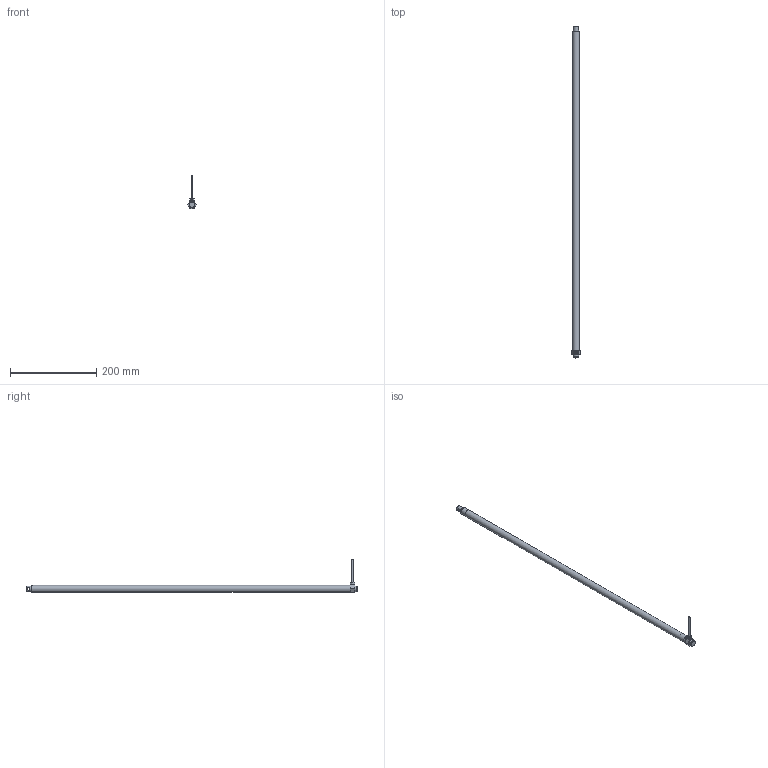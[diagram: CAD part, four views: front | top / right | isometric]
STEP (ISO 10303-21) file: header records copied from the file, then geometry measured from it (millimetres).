
FILE_DESCRIPTION(/* description */ ('Unknown'),/* implementation_level */ '2;1');
FILE_NAME(/* name */ '107.00037 Zylinder CB 1470_eingefahren',/* time_stamp */ '2018-03-26T09:12:37+02:00',/* author */ ('Unknown'),/* organization */ ('Unknown'),/* preprocessor_version */ 'ST-DEVELOPER v16.7',/* originating_system */ 'DEX',/* authorisation */ $);
FILE_SCHEMA (('AUTOMOTIVE_DESIGN {1 0 10303 214 3 1 1}'));
Length unit declared in the file: millimetre
Products named in the file (9): 107.00037; 121.00097; 142.00021; 125.00021; 115.00001_oa_0; 125.00033; 120.00177; 122.00001; 113.00002_70mm
Assembly tree (8 placements, depth 2):
  107.00037
    121.00097
    142.00021
    125.00021
    115.00001_oa_0
    125.00033
    120.00177
    122.00001
    113.00002_70mm
Bounding box: 19.63 x 769 x 76.5 mm (x, y, z)
Volume: 123158.2 mm3; surface area: 103381.3 mm2
Topology: 7 solids, 7 shells, 91 faces, 188 edges, 121 vertices
Faces by surface type: plane 37, cylinder 28, cone 22, torus 3, sphere 1
Full cylindrical faces by diameter (mm): 2.2 x1, 2.78 x1, 3.5 x1, 4 x1, 4.1 x1, 4.2 x1, 6 x1, 6.917 x2, 7.763 x2, 8 x3, 8.1 x3, 9 x1, 12 x2, 12.5 x1, 13 x2, 13.9 x2, 14 x2, 16 x1
Entity records: 2733 total; most frequent: CARTESIAN_POINT 436, DIRECTION 380, ORIENTED_EDGE 248, AXIS2_PLACEMENT_3D 172, FACE_BOUND 164, EDGE_LOOP 162, EDGE_CURVE 124, VERTEX_POINT 108
